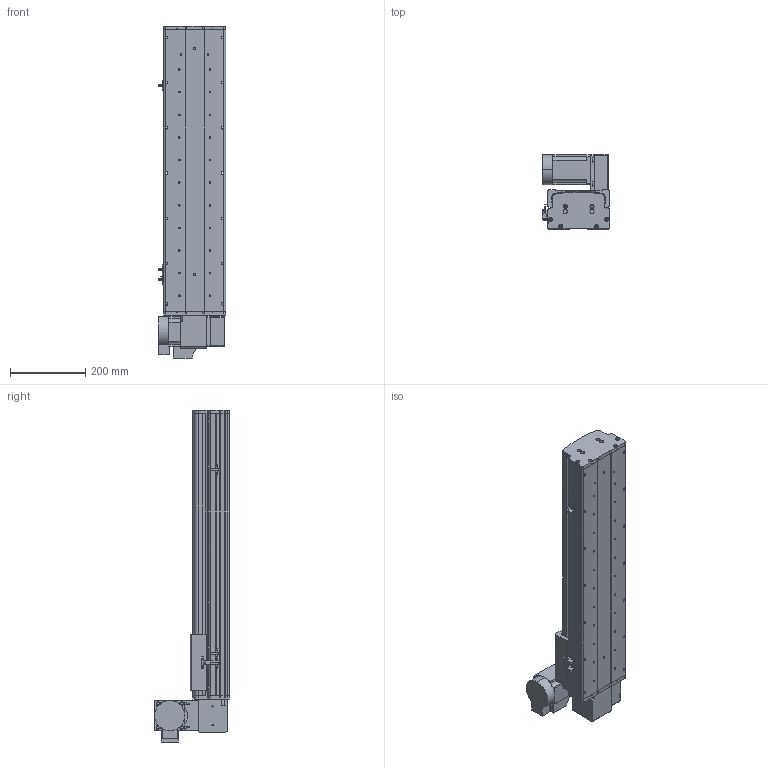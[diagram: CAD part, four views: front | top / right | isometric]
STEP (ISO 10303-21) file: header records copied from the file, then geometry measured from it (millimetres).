
FILE_DESCRIPTION (( 'STEP AP214' ), '1' );
FILE_NAME ('KSD165B-S500-MRU-CM.STEP', '2017-10-17T02:05:17', ( '微软用户' ), ( '微软中国' ), 'SwSTEP 2.0', 'SolidWorks 2014', '' );
FILE_SCHEMA (( 'AUTOMOTIVE_DESIGN' ));
Length unit declared in the file: millimetre
Products named in the file (18): KSD165耀郪-ヶ傷啣1-肮祭湍; KSD165模组-后端板1-同步带; KSD165模组-同步带滑动座-最新版; KSD165模组同步带底板-500行程-最新; KSD165B-S500-MRU-CM; 拸秶雄ん750W侜督萇儂; 165宽马达安装板同步带右; HTPA26S5M250-A-H8 750W萇儂蚚; HTPA26S5M250-A-H8 400W萇儂蚚 ; 130宽模组马达安装板连板上下折丝杆同步带; 130宽模组保护罩上下左右折-同步带; 肣翐M4X35樓6; KSD165模组-同步带防尘盖1-500行程-最新版; U倰嫖萇假蚾璃; U倰嫖萇EEㄜSX672; 覜茼え68遵圉猾敕; KSD165模组-同步带-防撞垫2; KSD165模组同步带-防撞垫1
Assembly tree (22 placements, depth 2):
  KSD165B-S500-MRU-CM
    KSD165模组同步带底板-500行程-最新
    KSD165模组-同步带滑动座-最新版
    KSD165模组-后端板1-同步带
    KSD165耀郪-ヶ傷啣1-肮祭湍
    KSD165模组同步带-防撞垫1
    KSD165模组-同步带-防撞垫2
    覜茼え68遵圉猾敕
    U倰嫖萇EEㄜSX672  x3
    U倰嫖萇假蚾璃  x3
    KSD165模组-同步带防尘盖1-500行程-最新版
    肣翐M4X35樓6  x2
    130宽模组保护罩上下左右折-同步带
    130宽模组马达安装板连板上下折丝杆同步带
    HTPA26S5M250-A-H8 400W萇儂蚚 
    HTPA26S5M250-A-H8 750W萇儂蚚
    165宽马达安装板同步带右
    拸秶雄ん750W侜督萇儂
Bounding box: 178.7 x 198 x 880.5 mm (x, y, z)
Volume: 5662087 mm3; surface area: 1311961.1 mm2
Topology: 23 solids, 23 shells, 1929 faces, 5420 edges, 3534 vertices
Faces by surface type: cylinder 1215, plane 598, cone 116
Entity records: 61558 total; most frequent: CARTESIAN_POINT 12602, DIRECTION 10158, ORIENTED_EDGE 9428, EDGE_CURVE 4714, AXIS2_PLACEMENT_3D 3971, VERTEX_POINT 3105, CIRCLE 2252, LINE 2216
